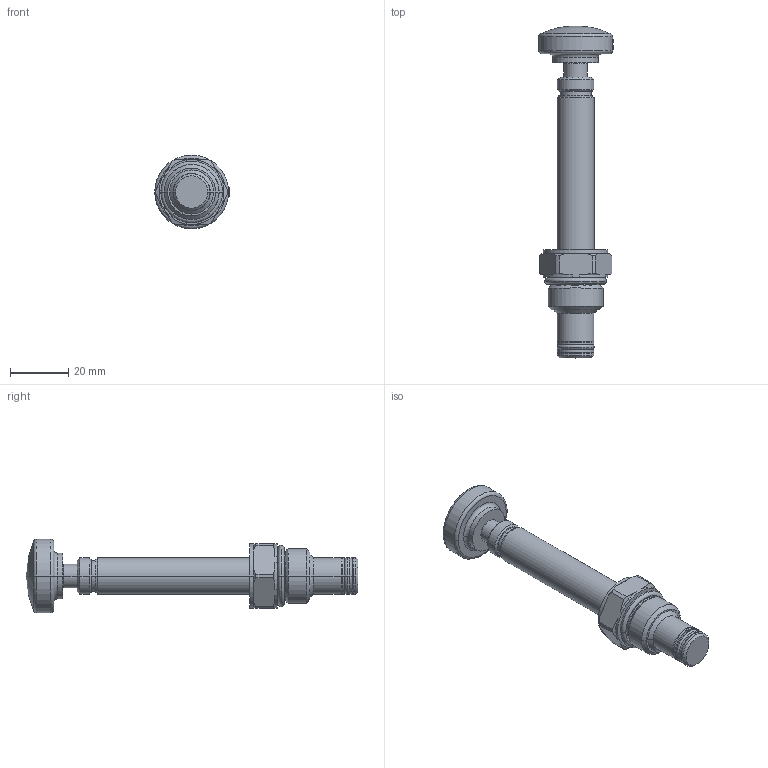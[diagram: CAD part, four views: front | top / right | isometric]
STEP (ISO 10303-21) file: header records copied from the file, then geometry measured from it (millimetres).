
FILE_DESCRIPTION((''),'2;1');
FILE_NAME('5005911_K_SW0002','2009-04-28T',('JCS'),(''),'PRO/ENGINEER BY PARAMETRIC TECHNOLOGY CORPORATION, 2008510','PRO/ENGINEER BY PARAMETRIC TECHNOLOGY CORPORATION, 2008510','');
FILE_SCHEMA(('CONFIG_CONTROL_DESIGN'));
Length unit declared in the file: inch
Products named in the file (1): 5005911_K_SW0002
Bounding box: 25.65 x 114.27 x 25.4 mm (x, y, z)
Volume: 21467.6 mm3; surface area: 7916.3 mm2
Topology: 2 solids, 3 shells, 158 faces, 349 edges, 207 vertices
Faces by surface type: cylinder 52, cone 38, plane 28, torus 22, revolution 16, sphere 2
Entity records: 4751 total; most frequent: CARTESIAN_POINT 1172, DIRECTION 795, ORIENTED_EDGE 694, EDGE_CURVE 347, AXIS2_PLACEMENT_3D 334, VERTEX_POINT 207, CIRCLE 192, EDGE_LOOP 172
